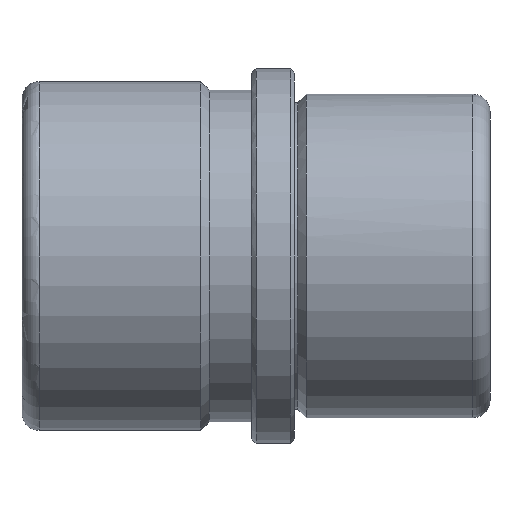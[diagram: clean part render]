
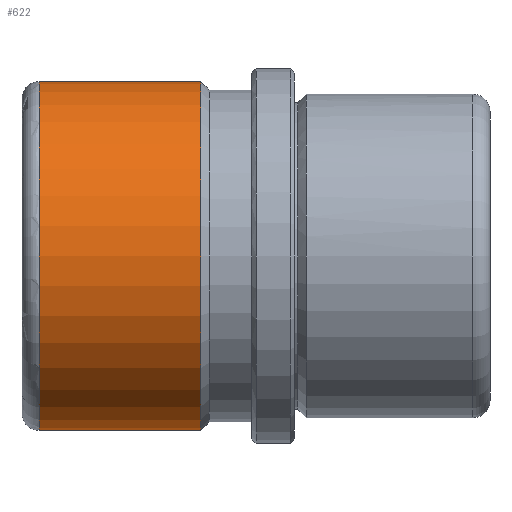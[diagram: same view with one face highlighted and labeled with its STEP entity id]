
A CAD part, front view. The second image highlights one B-rep face of the part: STEP entity #622.
In plain terms, the highlighted cylindrical face has radius 20.5 mm (diameter 41 mm), a partial arc.
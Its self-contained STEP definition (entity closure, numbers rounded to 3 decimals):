
#407=CARTESIAN_POINT('Line Origine',(23.,0.,20.5)) ;
#411=CARTESIAN_POINT('Vertex',(-11.,0.,20.5)) ;
#413=CARTESIAN_POINT('Vertex',(-30.,0.,20.5)) ;
#427=CARTESIAN_POINT('Vertex',(-11.,0.,-20.5)) ;
#430=CARTESIAN_POINT('Line Origine',(23.,0.,-20.5)) ;
#434=CARTESIAN_POINT('Vertex',(-30.,0.,-20.5)) ;
#585=CARTESIAN_POINT('Axis2P3D Location',(23.,0.,0.)) ;
#590=CARTESIAN_POINT('Axis2P3D Location',(-11.,0.,0.)) ;
#594=CARTESIAN_POINT('Vertex',(-11.,-20.5,0.)) ;
#597=CARTESIAN_POINT('Axis2P3D Location',(-11.,0.,0.)) ;
#602=CARTESIAN_POINT('Axis2P3D Location',(-30.,0.,0.)) ;
#606=CARTESIAN_POINT('Vertex',(-30.,-20.5,0.)) ;
#609=CARTESIAN_POINT('Axis2P3D Location',(-30.,0.,0.)) ;
#408=DIRECTION('Vector Direction',(-1.,0.,0.)) ;
#431=DIRECTION('Vector Direction',(-1.,0.,0.)) ;
#586=DIRECTION('Axis2P3D Direction',(-1.,-0.,-0.)) ;
#587=DIRECTION('Axis2P3D XDirection',(0.,0.,-1.)) ;
#591=DIRECTION('Axis2P3D Direction',(-1.,-0.,-0.)) ;
#598=DIRECTION('Axis2P3D Direction',(-1.,-0.,-0.)) ;
#603=DIRECTION('Axis2P3D Direction',(-1.,-0.,-0.)) ;
#610=DIRECTION('Axis2P3D Direction',(-1.,-0.,-0.)) ;
#588=AXIS2_PLACEMENT_3D('Cylinder Axis2P3D',#585,#586,#587) ;
#592=AXIS2_PLACEMENT_3D('Circle Axis2P3D',#590,#591,$) ;
#599=AXIS2_PLACEMENT_3D('Circle Axis2P3D',#597,#598,$) ;
#604=AXIS2_PLACEMENT_3D('Circle Axis2P3D',#602,#603,$) ;
#611=AXIS2_PLACEMENT_3D('Circle Axis2P3D',#609,#610,$) ;
#615=ORIENTED_EDGE('',*,*,#436,.T.) ;
#616=ORIENTED_EDGE('',*,*,#596,.F.) ;
#617=ORIENTED_EDGE('',*,*,#601,.F.) ;
#618=ORIENTED_EDGE('',*,*,#415,.T.) ;
#619=ORIENTED_EDGE('',*,*,#608,.T.) ;
#620=ORIENTED_EDGE('',*,*,#613,.T.) ;
#409=VECTOR('Line Direction',#408,1.) ;
#432=VECTOR('Line Direction',#431,1.) ;
#622=ADVANCED_FACE('CF 641 24 x 55',(#621),#589,.T.) ;
#593=CIRCLE('generated circle',#592,20.5) ;
#600=CIRCLE('generated circle',#599,20.5) ;
#605=CIRCLE('generated circle',#604,20.5) ;
#612=CIRCLE('generated circle',#611,20.5) ;
#589=CYLINDRICAL_SURFACE('generated cylinder',#588,20.5) ;
#415=EDGE_CURVE('',#412,#414,#410,.T.) ;
#436=EDGE_CURVE('',#435,#428,#433,.F.) ;
#596=EDGE_CURVE('',#595,#428,#593,.F.) ;
#601=EDGE_CURVE('',#412,#595,#600,.F.) ;
#608=EDGE_CURVE('',#414,#607,#605,.F.) ;
#613=EDGE_CURVE('',#607,#435,#612,.F.) ;
#614=EDGE_LOOP('',(#615,#616,#617,#618,#619,#620)) ;
#621=FACE_OUTER_BOUND('',#614,.T.) ;
#410=LINE('Line',#407,#409) ;
#433=LINE('Line',#430,#432) ;
#412=VERTEX_POINT('',#411) ;
#414=VERTEX_POINT('',#413) ;
#428=VERTEX_POINT('',#427) ;
#435=VERTEX_POINT('',#434) ;
#595=VERTEX_POINT('',#594) ;
#607=VERTEX_POINT('',#606) ;
